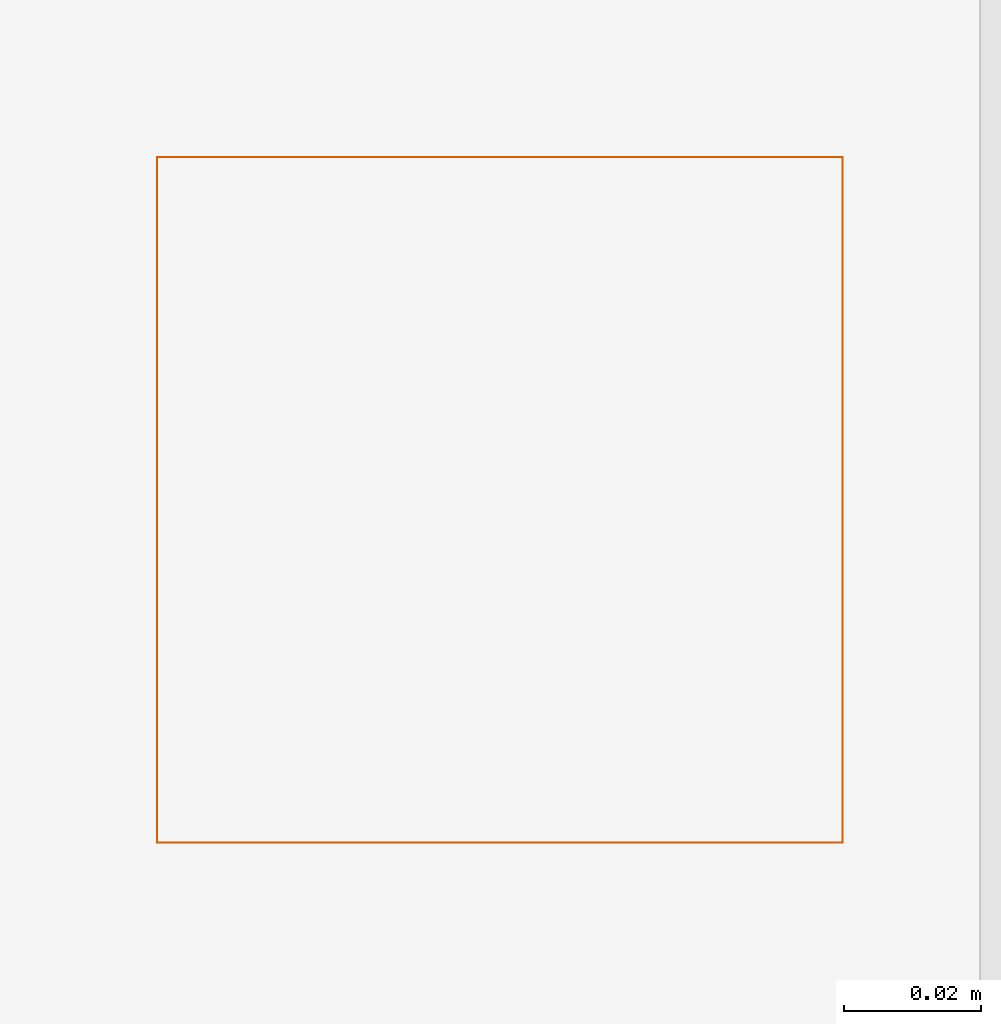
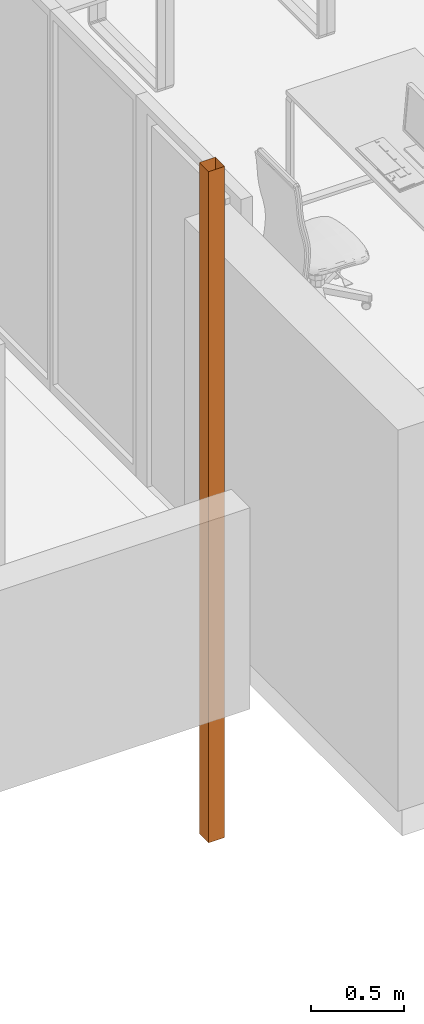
# One storey, part 49 of 51: 1 proxy.
"""IFC2X3 building model written with IfcOpenShell, lengths in metres."""

from ifc_helpers import new_model, entity, si_unit, converted_unit, derived_unit, direction, frame, origin, place, context, subcontext, project, spatial, faceted_brep, source, transform, mapped, material, type_object, type_shapes, element, save


model = new_model("IFC2X3")

# Units and contexts
model_context = context("Model", 3, precision=1e-05, world=origin(), true_north=direction((6.123031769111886e-17, 1.0)))
body_context = subcontext(model_context, "Body", "Model", "MODEL_VIEW")
ifc_project = project(units=[si_unit("LENGTHUNIT", "METRE"), si_unit("AREAUNIT", "SQUARE_METRE"), si_unit("VOLUMEUNIT", "CUBIC_METRE"), converted_unit("PLANEANGLEUNIT", "DEGREE", entity("IfcRatioMeasure", 0.017453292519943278), si_unit("PLANEANGLEUNIT", "RADIAN"), dimensions=[0, 0, 0, 0, 0, 0, 0]), si_unit("MASSUNIT", "GRAM", prefix="KILO"), derived_unit("MASSDENSITYUNIT", [(si_unit("MASSUNIT", "GRAM", prefix="KILO"), 1), (si_unit("LENGTHUNIT", "METRE"), -3)]), derived_unit("MOMENTOFINERTIAUNIT", [(si_unit("LENGTHUNIT", "METRE"), 4)]), si_unit("TIMEUNIT", "SECOND"), si_unit("FREQUENCYUNIT", "HERTZ"), si_unit("THERMODYNAMICTEMPERATUREUNIT", "DEGREE_CELSIUS"), derived_unit("THERMALTRANSMITTANCEUNIT", [(si_unit("MASSUNIT", "GRAM", prefix="KILO"), 1), (si_unit("THERMODYNAMICTEMPERATUREUNIT", "KELVIN"), -1), (si_unit("TIMEUNIT", "SECOND"), -3)]), derived_unit("THERMALCONDUCTANCEUNIT", [(si_unit("MASSUNIT", "GRAM", prefix="KILO"), 1), (si_unit("LENGTHUNIT", "METRE"), 1), (si_unit("THERMODYNAMICTEMPERATUREUNIT", "KELVIN"), -1), (si_unit("TIMEUNIT", "SECOND"), -3)]), derived_unit("VOLUMETRICFLOWRATEUNIT", [(si_unit("LENGTHUNIT", "METRE"), 3), (si_unit("TIMEUNIT", "SECOND"), -1)]), derived_unit("MASSFLOWRATEUNIT", [(si_unit("MASSUNIT", "GRAM", prefix="KILO"), 1), (si_unit("TIMEUNIT", "SECOND"), -1)]), derived_unit("ROTATIONALFREQUENCYUNIT", [(si_unit("TIMEUNIT", "SECOND"), -1)]), si_unit("ELECTRICCURRENTUNIT", "AMPERE"), si_unit("ELECTRICVOLTAGEUNIT", "VOLT"), si_unit("POWERUNIT", "WATT"), si_unit("FORCEUNIT", "NEWTON", prefix="KILO"), si_unit("ILLUMINANCEUNIT", "LUX"), si_unit("LUMINOUSFLUXUNIT", "LUMEN"), si_unit("LUMINOUSINTENSITYUNIT", "CANDELA"), derived_unit("USERDEFINED", [(si_unit("MASSUNIT", "GRAM", prefix="KILO"), -1), (si_unit("LENGTHUNIT", "METRE"), -2), (si_unit("TIMEUNIT", "SECOND"), 3), (si_unit("LUMINOUSFLUXUNIT", "LUMEN"), 1)]), derived_unit("USERDEFINED", [(si_unit("MASSUNIT", "GRAM", prefix="KILO"), 1), (si_unit("LENGTHUNIT", "METRE"), 3), (si_unit("TIMEUNIT", "SECOND"), -3), (si_unit("ELECTRICCURRENTUNIT", "AMPERE"), -2)]), derived_unit("USERDEFINED", [(si_unit("LENGTHUNIT", "METRE"), 2), (si_unit("TIMEUNIT", "SECOND"), -2)]), derived_unit("SOUNDPOWERUNIT", [(si_unit("MASSUNIT", "GRAM", prefix="KILO"), 1), (si_unit("LENGTHUNIT", "METRE"), 2), (si_unit("TIMEUNIT", "SECOND"), -3)]), derived_unit("SOUNDPRESSUREUNIT", [(si_unit("MASSUNIT", "GRAM", prefix="KILO"), 1), (si_unit("LENGTHUNIT", "METRE"), -1), (si_unit("TIMEUNIT", "SECOND"), -2)]), derived_unit("LINEARVELOCITYUNIT", [(si_unit("LENGTHUNIT", "METRE"), 1), (si_unit("TIMEUNIT", "SECOND"), -1)]), si_unit("PRESSUREUNIT", "PASCAL"), derived_unit("USERDEFINED", [(si_unit("LENGTHUNIT", "METRE"), -2), (si_unit("MASSUNIT", "GRAM", prefix="KILO"), 1), (si_unit("TIMEUNIT", "SECOND"), -2)]), derived_unit("LINEARFORCEUNIT", [(si_unit("MASSUNIT", "GRAM", prefix="KILO"), 1), (si_unit("LENGTHUNIT", "METRE"), 1), (si_unit("TIMEUNIT", "SECOND"), -2), (si_unit("LENGTHUNIT", "METRE"), -1)]), derived_unit("PLANARFORCEUNIT", [(si_unit("MASSUNIT", "GRAM", prefix="KILO"), 1), (si_unit("LENGTHUNIT", "METRE"), 1), (si_unit("TIMEUNIT", "SECOND"), -2), (si_unit("LENGTHUNIT", "METRE"), -2)]), derived_unit("SPECIFICHEATCAPACITYUNIT", [(si_unit("LENGTHUNIT", "METRE"), 2), (si_unit("TIMEUNIT", "SECOND"), -2), (si_unit("THERMODYNAMICTEMPERATUREUNIT", "KELVIN"), -1)]), derived_unit("VAPORPERMEABILITYUNIT", [(si_unit("TIMEUNIT", "SECOND"), 1), (si_unit("LENGTHUNIT", "METRE"), -1)]), derived_unit("DYNAMICVISCOSITYUNIT", [(si_unit("MASSUNIT", "GRAM", prefix="KILO"), 1), (si_unit("LENGTHUNIT", "METRE"), -1), (si_unit("TIMEUNIT", "SECOND"), -1)]), derived_unit("THERMALEXPANSIONCOEFFICIENTUNIT", [(si_unit("THERMODYNAMICTEMPERATUREUNIT", "KELVIN"), -1)])], contexts=[model_context])

# Site, building, storey
site_placement = place(None, origin())
site = spatial("IfcSite", under=ifc_project, at=site_placement, Name="Default", CompositionType="ELEMENT")
building_placement = place(site_placement, origin())
building = spatial("IfcBuilding", under=site, at=building_placement, CompositionType="ELEMENT")
storey_placement = place(building_placement, frame((0.0, 0.0, 3.06)))
storey = spatial("IfcBuildingStorey", under=building, at=storey_placement, Name="ÉTAGE", CompositionType="ELEMENT", Elevation=3.06)

# Proxy
ifc_material = material(Name="Métal - Zinc")
building_element_proxy_type = type_object("IfcBuildingElementProxyType", Name="Symb-0003", PredefinedType="NOTDEFINED", material=ifc_material)
shared_shape = source(origin(), body_context, "Body", "Brep", [
    faceted_brep([(0.0, 0.0, 4.4), (0.0, 0.0, 0.0), (0.10000000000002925, 0.0, 0.0), (0.10000000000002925, 0.0, 4.4), (0.0, 0.10000000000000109, 4.4), (0.0, 0.10000000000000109, 0.0), (0.10000000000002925, 0.10000000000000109, 0.0), (0.10000000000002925, 0.10000000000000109, 4.4)], [[[0, 1, 2, 3]], [[4, 5, 1, 0]], [[3, 2, 6, 7]], [[7, 6, 5, 4]]]),
])
type_shapes(building_element_proxy_type, [shared_shape])
proxy_placement = place(storey_placement, frame((141.28075215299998, 9.41220948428, -0.060000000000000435)))
element("IfcBuildingElementProxy", 1, at=proxy_placement, inside=storey, type_object=building_element_proxy_type, material=ifc_material, Name="Symb-0003 842945:Symb-0003 842945", ObjectType="Symb-0003 842945:Symb-0003 842945", context=body_context, shape_type="MappedRepresentation", body=[
    mapped(shared_shape, transform((0.0, 0.0, 0.0), scale=1.0)),
])

save(model, "model.ifc")
